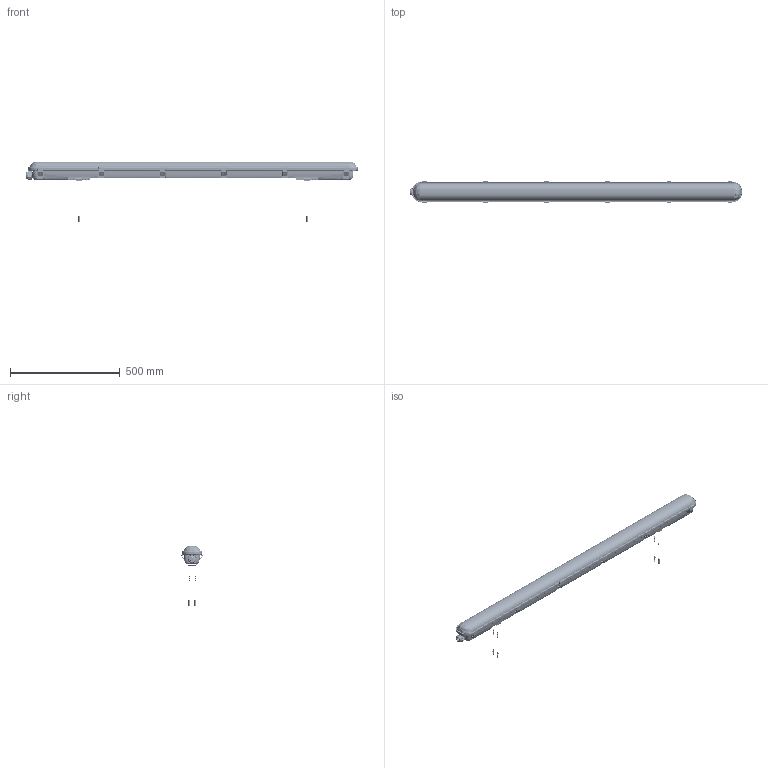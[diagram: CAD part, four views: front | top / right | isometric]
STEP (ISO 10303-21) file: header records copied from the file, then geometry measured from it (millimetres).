
FILE_DESCRIPTION(/* description */ (''),/* implementation_level */ '2;1');
FILE_NAME(/* name */ 'LG07L-15',/* time_stamp */ '2025-10-28T07:43:06+08:00',/* author */ (''),/* organization */ (''),/* preprocessor_version */ 'ST-DEVELOPER v9',/* originating_system */ 'EDS PLM SOLUTIONS - UNIGRAPHICS NX 2.0',/* authorisation */ '');
FILE_SCHEMA (('AUTOMOTIVE_DESIGN { 1 0 10303 214 0 1 1 1 }'));
Length unit declared in the file: millimetre
Products named in the file (1): Admi576Atdpo
Bounding box: 1509.83 x 95.62 x 274.61 mm (x, y, z)
Volume: 1066827.3 mm3; surface area: 1566035.5 mm2
Topology: 57 solids, 57 shells, 10639 faces, 29196 edges, 18413 vertices
Faces by surface type: plane 4951, cylinder 3342, bspline 1382, torus 698, cone 119, sphere 84, extrusion 59, revolution 4
Full cylindrical faces by diameter (mm): 1.3 x1, 2.3 x4, 2.5 x2, 2.6 x12, 3.2 x4, 3.3 x23, 3.519 x24, 3.6 x12, 4.2 x10, 4.5 x2, 5.4 x2, 6 x4, 6.3 x1, 7 x3, 8 x3, 19 x2, 19.1 x2, 19.5 x2, 21 x2, 22 x2, 22.6 x2, 23 x14, 24 x4, 24.6 x2, 25.6 x10, 31.5 x16, 32.3 x2, 36 x4, 37 x2
Entity records: 510541 total; most frequent: CARTESIAN_POINT 204321, ORIENTED_EDGE 57300, DIRECTION 48207, EDGE_CURVE 28650, VERTEX_POINT 18261, AXIS2_PLACEMENT_3D 16159, VECTOR 15885, LINE 15826
